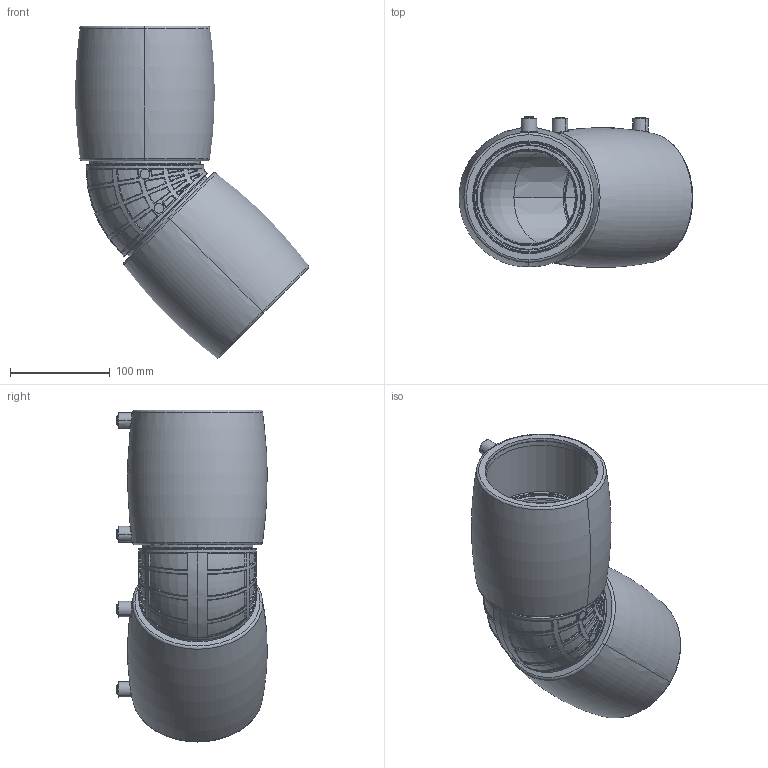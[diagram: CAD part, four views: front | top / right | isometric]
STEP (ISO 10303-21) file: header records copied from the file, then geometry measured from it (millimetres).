
FILE_DESCRIPTION (( 'STEP AP214' ), '1' );
FILE_NAME ('KP_24-110EC.STEP', '2025-05-21T09:02:15', ( '' ), ( '' ), 'SwSTEP 2.0', 'SolidWorks 2023', '' );
FILE_SCHEMA (( 'AUTOMOTIVE_DESIGN' ));
Length unit declared in the file: millimetre
Products named in the file (1): KP_24-110EC
Bounding box: 234.24 x 150.6 x 332.89 mm (x, y, z)
Volume: 1940983 mm3; surface area: 370853.2 mm2
Topology: 1 solids, 5 shells, 2509 faces, 6093 edges, 3781 vertices
Faces by surface type: bspline 912, plane 809, cylinder 340, torus 332, cone 92, sphere 24
Entity records: 113582 total; most frequent: CARTESIAN_POINT 62827, ORIENTED_EDGE 12132, DIRECTION 7998, EDGE_CURVE 6066, VERTEX_POINT 3770, AXIS2_PLACEMENT_3D 3123, B_SPLINE_CURVE_WITH_KNOTS 2770, EDGE_LOOP 2714
